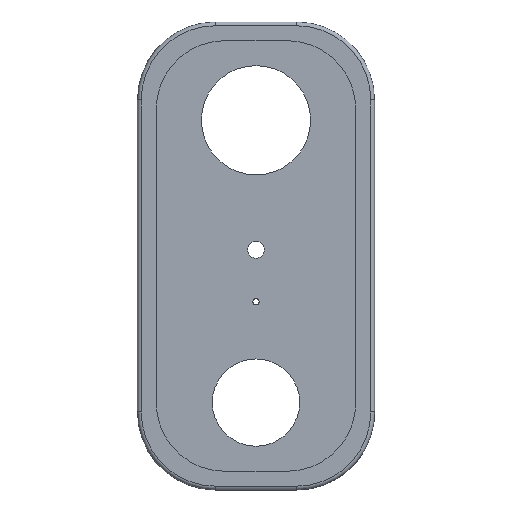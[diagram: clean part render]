
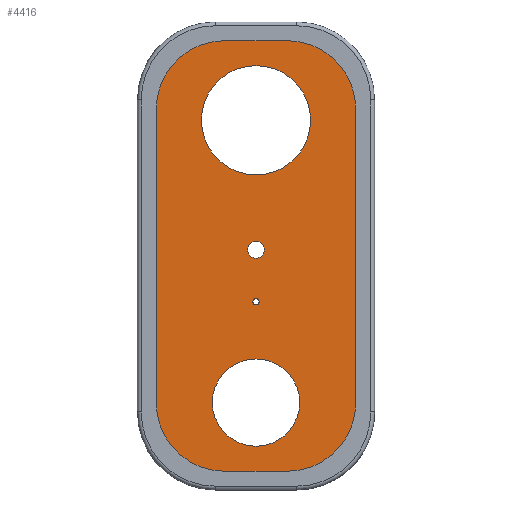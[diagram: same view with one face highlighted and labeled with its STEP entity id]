
A CAD part, top view. The second image highlights one B-rep face of the part: STEP entity #4416.
In plain terms, the highlighted planar face has unit normal (0, 0, 1).
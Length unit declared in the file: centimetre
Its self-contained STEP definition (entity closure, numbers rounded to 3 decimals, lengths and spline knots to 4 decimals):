
#44=FACE_BOUND('',#717,.T.);
#45=FACE_BOUND('',#718,.T.);
#46=FACE_BOUND('',#719,.T.);
#47=FACE_BOUND('',#720,.T.);
#213=PLANE('',#4805);
#451=FACE_OUTER_BOUND('',#716,.T.);
#716=EDGE_LOOP('',(#4057,#4058,#4059,#4060,#4061,#4062,#4063,#4064));
#717=EDGE_LOOP('',(#4065));
#718=EDGE_LOOP('',(#4066));
#719=EDGE_LOOP('',(#4067));
#720=EDGE_LOOP('',(#4068));
#1201=LINE('',#7306,#1686);
#1205=LINE('',#7315,#1690);
#1210=LINE('',#7331,#1695);
#1211=LINE('',#7333,#1696);
#1686=VECTOR('',#5996,1.);
#1690=VECTOR('',#6006,1.);
#1695=VECTOR('',#6025,1.);
#1696=VECTOR('',#6028,1.);
#1818=CIRCLE('',#4744,0.1);
#1819=CIRCLE('',#4746,0.27);
#1820=CIRCLE('',#4748,1.4);
#1821=CIRCLE('',#4750,1.75);
#1835=CIRCLE('',#4796,2.2);
#1836=CIRCLE('',#4799,2.2);
#1837=CIRCLE('',#4801,2.2);
#1838=CIRCLE('',#4803,2.2);
#2225=VERTEX_POINT('',#7202);
#2226=VERTEX_POINT('',#7206);
#2227=VERTEX_POINT('',#7210);
#2228=VERTEX_POINT('',#7214);
#2245=VERTEX_POINT('',#7303);
#2246=VERTEX_POINT('',#7305);
#2247=VERTEX_POINT('',#7309);
#2248=VERTEX_POINT('',#7313);
#2249=VERTEX_POINT('',#7317);
#2250=VERTEX_POINT('',#7321);
#2251=VERTEX_POINT('',#7325);
#2252=VERTEX_POINT('',#7327);
#2812=EDGE_CURVE('',#2225,#2225,#1818,.T.);
#2814=EDGE_CURVE('',#2226,#2226,#1819,.T.);
#2816=EDGE_CURVE('',#2227,#2227,#1820,.T.);
#2818=EDGE_CURVE('',#2228,#2228,#1821,.T.);
#2859=EDGE_CURVE('',#2246,#2245,#1201,.T.);
#2862=EDGE_CURVE('',#2245,#2247,#1835,.T.);
#2864=EDGE_CURVE('',#2247,#2248,#1205,.T.);
#2866=EDGE_CURVE('',#2248,#2249,#1836,.T.);
#2867=EDGE_CURVE('',#2250,#2246,#1837,.T.);
#2870=EDGE_CURVE('',#2252,#2251,#1838,.T.);
#2872=EDGE_CURVE('',#2251,#2250,#1210,.T.);
#2873=EDGE_CURVE('',#2249,#2252,#1211,.T.);
#4057=ORIENTED_EDGE('',*,*,#2859,.T.);
#4058=ORIENTED_EDGE('',*,*,#2862,.T.);
#4059=ORIENTED_EDGE('',*,*,#2864,.T.);
#4060=ORIENTED_EDGE('',*,*,#2866,.T.);
#4061=ORIENTED_EDGE('',*,*,#2873,.T.);
#4062=ORIENTED_EDGE('',*,*,#2870,.T.);
#4063=ORIENTED_EDGE('',*,*,#2872,.T.);
#4064=ORIENTED_EDGE('',*,*,#2867,.T.);
#4065=ORIENTED_EDGE('',*,*,#2812,.T.);
#4066=ORIENTED_EDGE('',*,*,#2814,.T.);
#4067=ORIENTED_EDGE('',*,*,#2816,.T.);
#4068=ORIENTED_EDGE('',*,*,#2818,.T.);
#4416=ADVANCED_FACE('',(#451,#44,#45,#46,#47),#213,.T.);
#4744=AXIS2_PLACEMENT_3D('',#7204,#5864,#5865);
#4746=AXIS2_PLACEMENT_3D('',#7208,#5869,#5870);
#4748=AXIS2_PLACEMENT_3D('',#7212,#5874,#5875);
#4750=AXIS2_PLACEMENT_3D('',#7216,#5879,#5880);
#4796=AXIS2_PLACEMENT_3D('',#7311,#6001,#6002);
#4799=AXIS2_PLACEMENT_3D('',#7319,#6010,#6011);
#4801=AXIS2_PLACEMENT_3D('',#7322,#6014,#6015);
#4803=AXIS2_PLACEMENT_3D('',#7328,#6020,#6021);
#4805=AXIS2_PLACEMENT_3D('',#7332,#6026,#6027);
#5864=DIRECTION('center_axis',(0.,0.,-1.));
#5865=DIRECTION('ref_axis',(1.,0.,0.));
#5869=DIRECTION('center_axis',(0.,0.,-1.));
#5870=DIRECTION('ref_axis',(1.,0.,0.));
#5874=DIRECTION('center_axis',(0.,0.,-1.));
#5875=DIRECTION('ref_axis',(1.,0.,0.));
#5879=DIRECTION('center_axis',(0.,0.,-1.));
#5880=DIRECTION('ref_axis',(1.,0.,0.));
#5996=DIRECTION('',(-1.,0.,0.));
#6001=DIRECTION('center_axis',(0.,0.,1.));
#6002=DIRECTION('ref_axis',(1.,0.,0.));
#6006=DIRECTION('',(0.,-1.,0.));
#6010=DIRECTION('center_axis',(0.,0.,1.));
#6011=DIRECTION('ref_axis',(1.,0.,0.));
#6014=DIRECTION('center_axis',(0.,0.,1.));
#6015=DIRECTION('ref_axis',(1.,0.,0.));
#6020=DIRECTION('center_axis',(0.,0.,1.));
#6021=DIRECTION('ref_axis',(1.,0.,0.));
#6025=DIRECTION('',(0.,1.,0.));
#6026=DIRECTION('center_axis',(0.,0.,1.));
#6027=DIRECTION('ref_axis',(1.,0.,0.));
#6028=DIRECTION('',(1.,0.,0.));
#7202=CARTESIAN_POINT('',(-0.1,-1.471,0.));
#7204=CARTESIAN_POINT('Origin',(0.,-1.471,0.));
#7206=CARTESIAN_POINT('',(-0.27,0.2,0.));
#7208=CARTESIAN_POINT('Origin',(0.,0.2,0.));
#7210=CARTESIAN_POINT('',(-1.4,-4.7,0.));
#7212=CARTESIAN_POINT('Origin',(0.,-4.7,0.));
#7214=CARTESIAN_POINT('',(-1.75,4.35,0.));
#7216=CARTESIAN_POINT('Origin',(0.,4.35,0.));
#7303=CARTESIAN_POINT('',(-1.,6.9,0.));
#7305=CARTESIAN_POINT('',(1.,6.9,0.));
#7306=CARTESIAN_POINT('',(0.,6.9,0.));
#7309=CARTESIAN_POINT('',(-3.2,4.7,0.));
#7311=CARTESIAN_POINT('Origin',(-1.,4.7,0.));
#7313=CARTESIAN_POINT('',(-3.2,-4.7,0.));
#7315=CARTESIAN_POINT('',(-3.2,0.,0.));
#7317=CARTESIAN_POINT('',(-1.,-6.9,0.));
#7319=CARTESIAN_POINT('Origin',(-1.,-4.7,0.));
#7321=CARTESIAN_POINT('',(3.2,4.7,0.));
#7322=CARTESIAN_POINT('Origin',(1.,4.7,0.));
#7325=CARTESIAN_POINT('',(3.2,-4.7,0.));
#7327=CARTESIAN_POINT('',(1.,-6.9,0.));
#7328=CARTESIAN_POINT('Origin',(1.,-4.7,0.));
#7331=CARTESIAN_POINT('',(3.2,0.,0.));
#7332=CARTESIAN_POINT('Origin',(0.,0.,0.));
#7333=CARTESIAN_POINT('',(0.,-6.9,0.));
